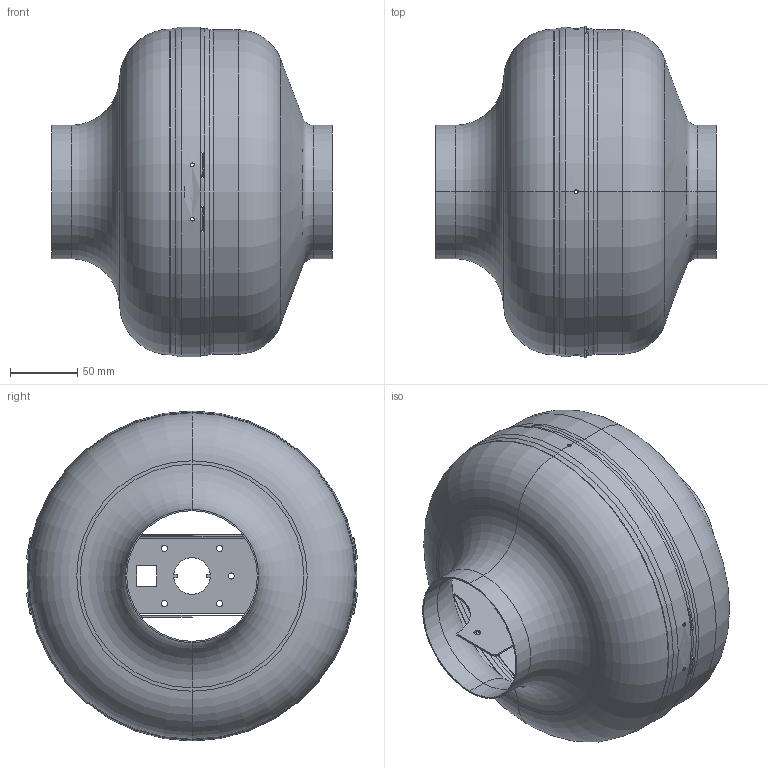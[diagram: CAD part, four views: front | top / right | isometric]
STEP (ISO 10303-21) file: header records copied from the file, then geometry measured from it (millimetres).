
FILE_DESCRIPTION (( 'STEP AP203' ), '1' );
FILE_NAME ('143351-00_RS100L20.STEP', '2018-03-06T05:18:02', ( '' ), ( '' ), 'SwSTEP 2.0', 'SolidWorks 2012', '' );
FILE_SCHEMA (( 'CONFIG_CONTROL_DESIGN' ));
Length unit declared in the file: millimetre
Products named in the file (1): 143351-00_RS100L20
Bounding box: 208.5 x 245.76 x 245 mm (x, y, z)
Surface area: 368607.7 mm2 (no closed solid volume)
Topology: 0 solids, 9 shells, 160 faces, 538 edges, 375 vertices
Faces by surface type: cylinder 71, plane 43, torus 36, cone 10
Entity records: 7253 total; most frequent: CARTESIAN_POINT 2532, DIRECTION 978, ORIENTED_EDGE 877, EDGE_CURVE 538, VERTEX_POINT 375, AXIS2_PLACEMENT_3D 368, VECTOR 242, LINE 242
